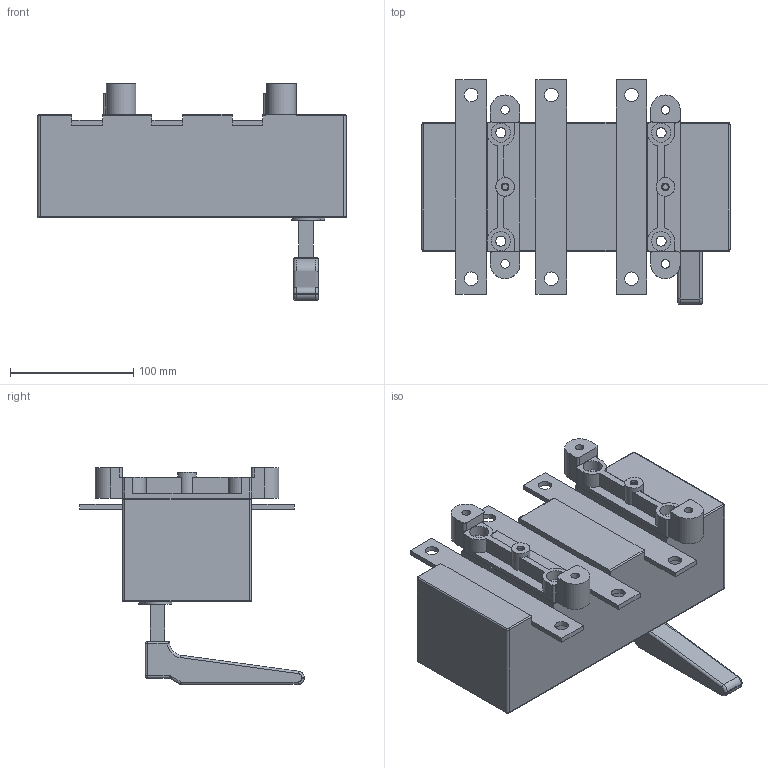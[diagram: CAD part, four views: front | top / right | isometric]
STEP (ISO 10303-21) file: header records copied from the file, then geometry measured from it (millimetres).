
FILE_DESCRIPTION(/* description */ (''),/* implementation_level */ '2;1');
FILE_NAME(/* name */ 'RA400 P3-R.stp',/* time_stamp */ '2021-08-18T13:51:55+02:00',/* author */ (''),/* organization */ (''),/* preprocessor_version */ 'ST-DEVELOPER v18.1',/* originating_system */ 'SIEMENS PLM Software NX 1965',/* authorisation */ '');
FILE_SCHEMA (('AUTOMOTIVE_DESIGN { 1 0 10303 214 3 1 1 1 }'));
Length unit declared in the file: millimetre
Products named in the file (1): RA400 P3-R_stp
Bounding box: 250 x 182 x 176 mm (x, y, z)
Volume: 2300844.2 mm3; surface area: 170865.3 mm2
Topology: 1 solids, 1 shells, 246 faces, 631 edges, 396 vertices
Faces by surface type: plane 117, cylinder 107, torus 13, sphere 6, bspline 3
Full cylindrical faces by diameter (mm): 4.8 x2, 6.2 x2, 7 x4, 8.2 x4, 11 x6, 14 x4, 15 x2, 15.5 x4
Entity records: 7332 total; most frequent: DIRECTION 1307, CARTESIAN_POINT 1301, ORIENTED_EDGE 1178, EDGE_CURVE 589, AXIS2_PLACEMENT_3D 478, VERTEX_POINT 388, LINE 351, VECTOR 351
